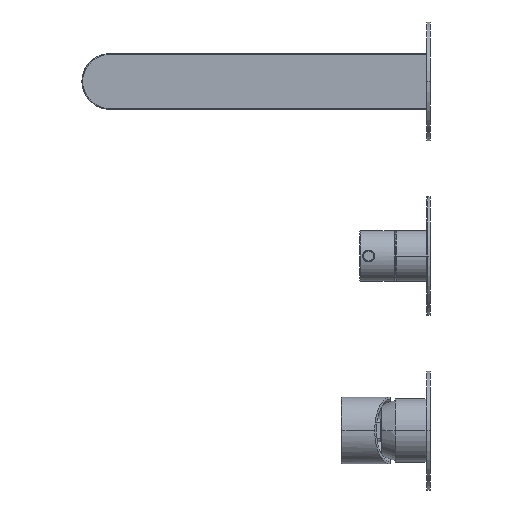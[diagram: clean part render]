
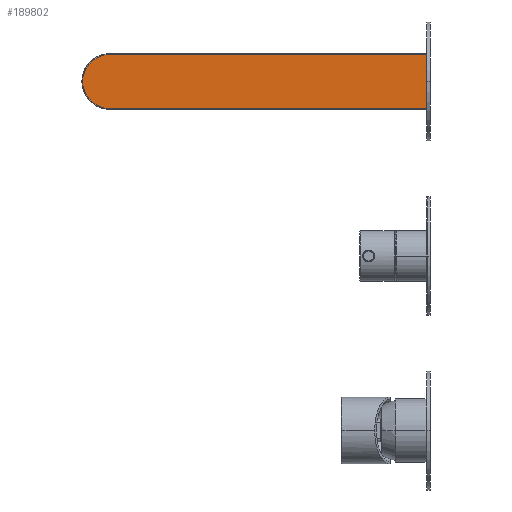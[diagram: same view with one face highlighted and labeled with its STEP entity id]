
A CAD part, left-side view. The second image highlights one B-rep face of the part: STEP entity #189802.
In plain terms, the highlighted planar face has unit normal (-1, 0, 0).
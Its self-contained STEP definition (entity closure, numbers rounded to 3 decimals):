
#107822=DIRECTION('',(0.,0.,-1.));
#107823=VECTOR('',#107822,34.);
#107824=CARTESIAN_POINT('',(-10.8,77.,127.));
#107825=LINE('',#107824,#107823);
#107826=CARTESIAN_POINT('',(-10.8,77.,93.));
#107827=CARTESIAN_POINT('',(-10.8,143.667,93.));
#107828=CARTESIAN_POINT('',(-10.8,210.333,93.));
#107829=CARTESIAN_POINT('',(-10.8,277.,93.));
#107831=CARTESIAN_POINT('',(-10.8,277.,110.));
#107832=DIRECTION('',(1.,0.,0.));
#107833=DIRECTION('',(0.,0.,-1.));
#107834=AXIS2_PLACEMENT_3D('',#107831,#107832,#107833);
#107836=CARTESIAN_POINT('',(-10.8,277.,127.));
#107837=CARTESIAN_POINT('',(-10.8,210.333,127.));
#107838=CARTESIAN_POINT('',(-10.8,143.667,127.));
#107839=CARTESIAN_POINT('',(-10.8,77.,127.));
#167720=CARTESIAN_POINT('',(-10.8,277.,93.));
#167721=CARTESIAN_POINT('',(-10.8,277.,127.));
#167722=VERTEX_POINT('',#167720);
#167723=VERTEX_POINT('',#167721);
#167801=CARTESIAN_POINT('',(-10.8,77.,127.));
#167802=CARTESIAN_POINT('',(-10.8,77.,93.));
#167803=VERTEX_POINT('',#167801);
#167804=VERTEX_POINT('',#167802);
#189788=CARTESIAN_POINT('',(-10.8,73.,110.));
#189789=DIRECTION('',(-1.,0.,0.));
#189790=DIRECTION('',(0.,1.,0.));
#189791=AXIS2_PLACEMENT_3D('',#189788,#189789,#189790);
#189792=PLANE('',#189791);
#189793=ORIENTED_EDGE('',*,*,#189567,.T.);
#189795=ORIENTED_EDGE('',*,*,#189794,.T.);
#189797=ORIENTED_EDGE('',*,*,#189796,.T.);
#189799=ORIENTED_EDGE('',*,*,#189798,.T.);
#189800=EDGE_LOOP('',(#189793,#189795,#189797,#189799));
#189801=FACE_OUTER_BOUND('',#189800,.F.);
#189802=ADVANCED_FACE('',(#189801),#189792,.T.);
#107830=B_SPLINE_CURVE_WITH_KNOTS('',3,(#107826,#107827,#107828,#107829),
.UNSPECIFIED.,.F.,.F.,(4,4),(0.,1.),.UNSPECIFIED.);
#107835=CIRCLE('',#107834,17.);
#107840=B_SPLINE_CURVE_WITH_KNOTS('',3,(#107836,#107837,#107838,#107839),
.UNSPECIFIED.,.F.,.F.,(4,4),(0.,1.),.UNSPECIFIED.);
#189567=EDGE_CURVE('',#167803,#167804,#107825,.T.);
#189794=EDGE_CURVE('',#167804,#167722,#107830,.T.);
#189796=EDGE_CURVE('',#167722,#167723,#107835,.T.);
#189798=EDGE_CURVE('',#167723,#167803,#107840,.T.);
